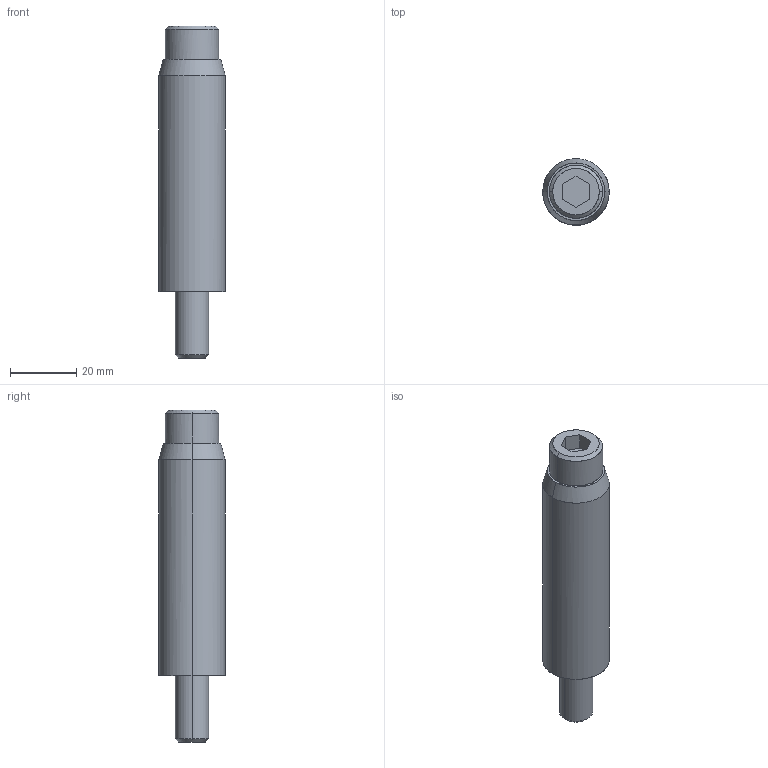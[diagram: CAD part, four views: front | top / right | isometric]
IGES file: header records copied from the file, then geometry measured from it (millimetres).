
Global section: file name: E:\UnigraphicsGraphicData\MISUMI_PRESS-PARTS\IGES\3d_sgc20-80_00798_r00.igs; native system: NX V5.0; preprocessor: UGS NX IGES V5.0; author: MISUMI; date: 20110105.162538; units: millimetre
Bounding box: 20 x 20 x 100 mm (x, y, z)
Surface area: 8760.5 mm2 (no closed solid volume)
Topology: 0 solids, 0 shells, 27 faces, 180 edges, 180 vertices
Faces by surface type: bspline 27
